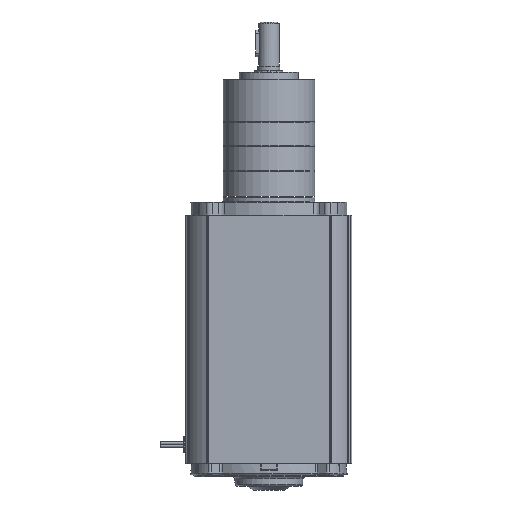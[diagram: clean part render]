
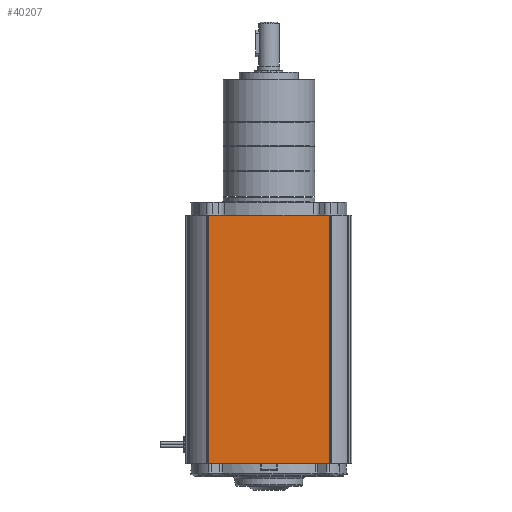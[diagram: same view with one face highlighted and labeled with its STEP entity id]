
A CAD part, left-side view. The second image highlights one B-rep face of the part: STEP entity #40207.
In plain terms, the highlighted planar face has unit normal (-1, 0, 0).
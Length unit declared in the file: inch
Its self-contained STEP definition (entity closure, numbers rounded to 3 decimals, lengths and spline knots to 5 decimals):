
#831 = LINE ( 'NONE', #5639, #24472 ) ;
#1523 = ORIENTED_EDGE ( 'NONE', *, *, #29915, .F. ) ;
#1678 = VERTEX_POINT ( 'NONE', #5632 ) ;
#2240 = VECTOR ( 'NONE', #11147, 39.37008 ) ;
#3425 = AXIS2_PLACEMENT_3D ( 'NONE', #6831, #28384, #9933 ) ;
#5632 = CARTESIAN_POINT ( 'NONE',  ( -2.21, -1.61, -6.614 ) ) ;
#5639 = CARTESIAN_POINT ( 'NONE',  ( -2.21, 1.61, -6.791 ) ) ;
#6577 = CARTESIAN_POINT ( 'NONE',  ( -2.21, 1.61, -6.614 ) ) ;
#6831 = CARTESIAN_POINT ( 'NONE',  ( -2.21, -1.64, -6.791 ) ) ;
#8011 = ORIENTED_EDGE ( 'NONE', *, *, #39089, .T. ) ;
#8446 = VERTEX_POINT ( 'NONE', #6577 ) ;
#8737 = DIRECTION ( 'NONE',  ( 0., 0., 1. ) ) ;
#9933 = DIRECTION ( 'NONE',  ( 0., 0., 1. ) ) ;
#11147 = DIRECTION ( 'NONE',  ( 0., 1., 0. ) ) ;
#11567 = EDGE_CURVE ( 'NONE', #1678, #8446, #14777, .T. ) ;
#12663 = CARTESIAN_POINT ( 'NONE',  ( -2.21, -1.61, 0. ) ) ;
#14037 = EDGE_CURVE ( 'NONE', #24729, #8446, #831, .T. ) ;
#14355 = CARTESIAN_POINT ( 'NONE',  ( -2.21, -1.64, 0. ) ) ;
#14777 = LINE ( 'NONE', #29632, #2240 ) ;
#15840 = PLANE ( 'NONE',  #3425 ) ;
#18307 = ORIENTED_EDGE ( 'NONE', *, *, #11567, .F. ) ;
#21927 = FACE_OUTER_BOUND ( 'NONE', #30793, .T. ) ;
#24472 = VECTOR ( 'NONE', #33153, 39.37008 ) ;
#24729 = VERTEX_POINT ( 'NONE', #40174 ) ;
#28384 = DIRECTION ( 'NONE',  ( -1., 0., 0. ) ) ;
#28800 = VECTOR ( 'NONE', #29756, 39.37008 ) ;
#29632 = CARTESIAN_POINT ( 'NONE',  ( -2.21, 1.61, -6.614 ) ) ;
#29756 = DIRECTION ( 'NONE',  ( 0., -1., 0. ) ) ;
#29766 = LINE ( 'NONE', #14355, #28800 ) ;
#29915 = EDGE_CURVE ( 'NONE', #24729, #35110, #29766, .T. ) ;
#30335 = CARTESIAN_POINT ( 'NONE',  ( -2.21, -1.61, -6.791 ) ) ;
#30793 = EDGE_LOOP ( 'NONE', ( #34236, #18307, #8011, #1523 ) ) ;
#33153 = DIRECTION ( 'NONE',  ( 0., 0., -1. ) ) ;
#33240 = VECTOR ( 'NONE', #8737, 39.37008 ) ;
#34232 = LINE ( 'NONE', #30335, #33240 ) ;
#34236 = ORIENTED_EDGE ( 'NONE', *, *, #14037, .T. ) ;
#35110 = VERTEX_POINT ( 'NONE', #12663 ) ;
#39089 = EDGE_CURVE ( 'NONE', #1678, #35110, #34232, .T. ) ;
#40174 = CARTESIAN_POINT ( 'NONE',  ( -2.21, 1.61, 0. ) ) ;
#40207 = ADVANCED_FACE ( 'NONE', ( #21927 ), #15840, .T. ) ;
